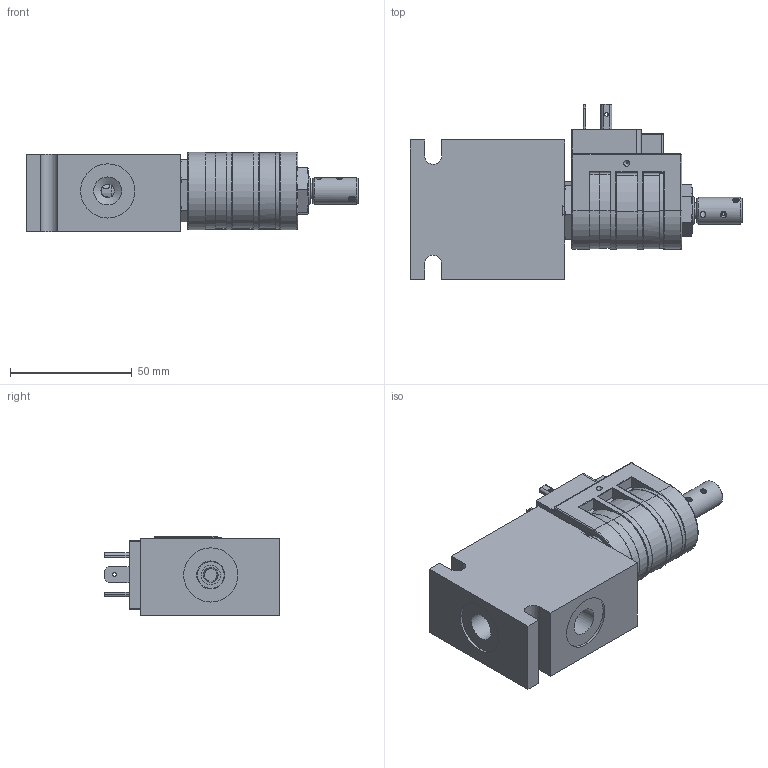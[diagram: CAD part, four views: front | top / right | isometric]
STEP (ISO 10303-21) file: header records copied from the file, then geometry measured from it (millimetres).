
FILE_DESCRIPTION( ( 'Unknown' ), '1' );
FILE_NAME( 'G:/Graphic Design/Graphic Design 2/Data Sheets/SOLENOID OPERATED VALVES/4_STEP/3W2P Spool/PP-S3A0M-A3.stp', 'Unknown', ( 'Unknown' ), ( 'Unknown' ), 'PSStep 15.0.49', 'Unknown', ' ' );
FILE_SCHEMA( ( 'AUTOMOTIVE_DESIGN { 1 0 10303 214 1 1 1 1 }' ) );
Length unit declared in the file: millimetre
Products named in the file (21): D-PHC12_24; PHC_Body; PHC_Disc; PHC_HirschThread; PT-EL-HC-TerminalConnectors; D-PP-S3A-0M-delta; PPS3A0M-3D Full1; PPS3A0M-3D Full2; PPS3A0M-3D Full3; PPS3A0M-3D Full4; PPS3A0M-3D Full5; PPS3A0M-3D Full6; PPS3A0M-3D Full7; PPS3A0M-3D Full8; PPS3A0M-3D Full9; Delta_1_2_nut1; Assem1; B-D-PP-A3_
Assembly tree (21 placements, depth 3):
  Assem1
    B-D-PP-A3_
    D-PHC12_24
      PHC_Body
      PHC_Disc  x2
      PHC_HirschThread
      PT-EL-HC-TerminalConnectors
      PT-EL-HC-TerminalConnectors
      PT-EL-HC-TerminalConnectors
      PT-EL-HC-TerminalConnectors
    D-PP-S3A-0M-delta
      PPS3A0M-3D Full1
      PPS3A0M-3D Full2
      PPS3A0M-3D Full3
      PPS3A0M-3D Full4
      PPS3A0M-3D Full5
      PPS3A0M-3D Full6
      PPS3A0M-3D Full7
      PPS3A0M-3D Full8
      PPS3A0M-3D Full9
      Delta_1_2_nut1
Bounding box: 136.14 x 71.8 x 32.62 mm (x, y, z)
Volume: 163343.8 mm3; surface area: 45256.3 mm2
Topology: 19 solids, 19 shells, 488 faces, 1107 edges, 675 vertices
Faces by surface type: cylinder 171, cone 149, plane 145, torus 17, sphere 6
Full cylindrical faces by diameter (mm): 0.5 x2, 0.889 x2, 1 x1, 1.5 x3, 2.426 x2, 3.175 x12, 4 x2, 5.5 x1, 6.388 x1, 7.948 x1, 10.161 x1, 10.922 x1, 10.938 x1, 11 x2, 11.455 x1, 11.5 x6, 11.506 x2, 12.421 x1, 12.548 x1, 12.675 x1, 13 x1, 13.05 x2, 13.056 x1, 13.106 x2, 13.437 x2, 14.021 x1, 14.199 x4, 14.326 x1, 15.037 x2, 15.799 x5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
Entity records: 16982 total; most frequent: CARTESIAN_POINT 3834, DIRECTION 2200, ORIENTED_EDGE 1716, AXIS2_PLACEMENT_3D 951, EDGE_CURVE 858, EDGE_LOOP 740, VERTEX_POINT 635, FACE_OUTER_BOUND 559
